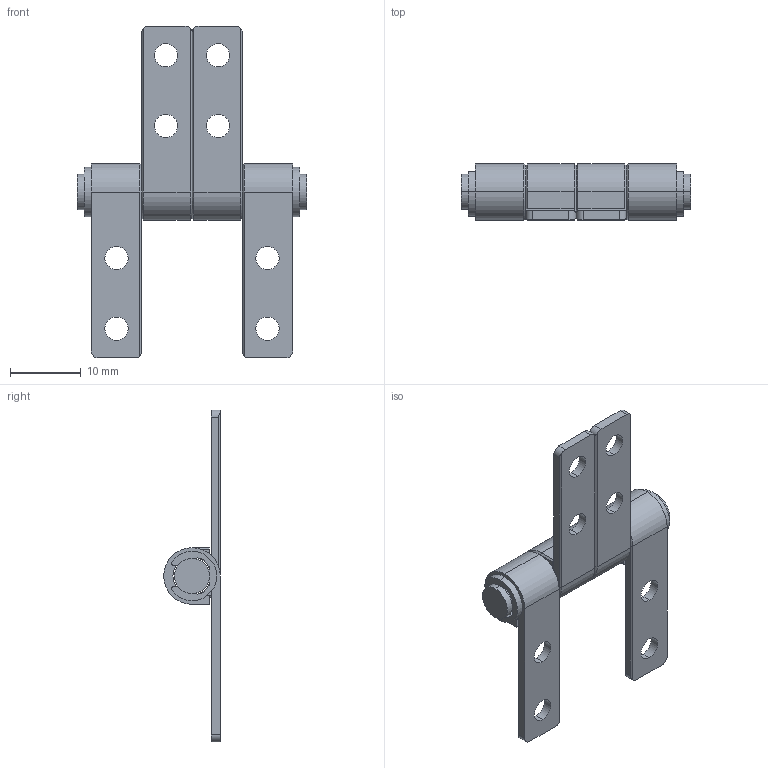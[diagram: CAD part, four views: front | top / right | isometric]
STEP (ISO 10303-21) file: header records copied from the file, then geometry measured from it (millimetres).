
FILE_DESCRIPTION (( 'STEP AP214' ), '1' );
FILE_NAME ('DP032.STEP', '2023-07-21T02:30:17', ( '' ), ( '' ), 'SwSTEP 2.0', 'SolidWorks 2019', '' );
FILE_SCHEMA (( 'AUTOMOTIVE_DESIGN' ));
Length unit declared in the file: millimetre
Products named in the file (1): DP032
Bounding box: 32.5 x 8 x 47 mm (x, y, z)
Volume: 1666.9 mm3; surface area: 3275.3 mm2
Topology: 7 solids, 7 shells, 130 faces, 325 edges, 211 vertices
Faces by surface type: plane 60, cylinder 54, cone 12, bspline 4
Entity records: 4115 total; most frequent: CARTESIAN_POINT 807, DIRECTION 686, ORIENTED_EDGE 650, EDGE_CURVE 325, AXIS2_PLACEMENT_3D 250, VERTEX_POINT 211, VECTOR 186, LINE 186
